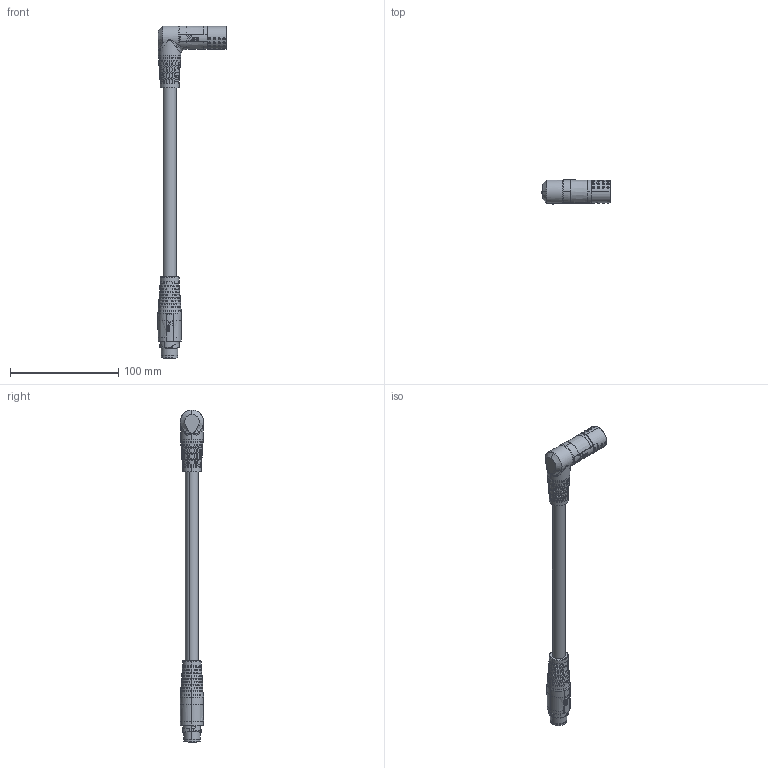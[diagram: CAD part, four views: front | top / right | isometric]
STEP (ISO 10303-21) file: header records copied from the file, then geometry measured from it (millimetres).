
FILE_DESCRIPTION (( 'STEP AP214' ), '1' );
FILE_NAME ('W-TEC 15M STI-BU_90°L.STEP', '2021-07-21T15:54:01', ( '' ), ( '' ), 'SwSTEP 2.0', 'SolidWorks 2021', '' );
FILE_SCHEMA (( 'AUTOMOTIVE_DESIGN' ));
Length unit declared in the file: millimetre
Products named in the file (1): W-TEC 15M STI-BU_90袂
Bounding box: 63.13 x 21.83 x 307.15 mm (x, y, z)
Surface area: 25697.5 mm2 (no closed solid volume)
Topology: 0 solids, 18 shells, 1305 faces, 3613 edges, 2276 vertices
Faces by surface type: bspline 591, plane 386, cylinder 215, cone 94, torus 19
Entity records: 85628 total; most frequent: CARTESIAN_POINT 43931, ORIENTED_EDGE 6800, DIRECTION 4112, EDGE_CURVE 3472, VERTEX_POINT 2276, AXIS2_PLACEMENT_3D 1584, EDGE_LOOP 1414, B_SPLINE_CURVE_WITH_KNOTS 1383
